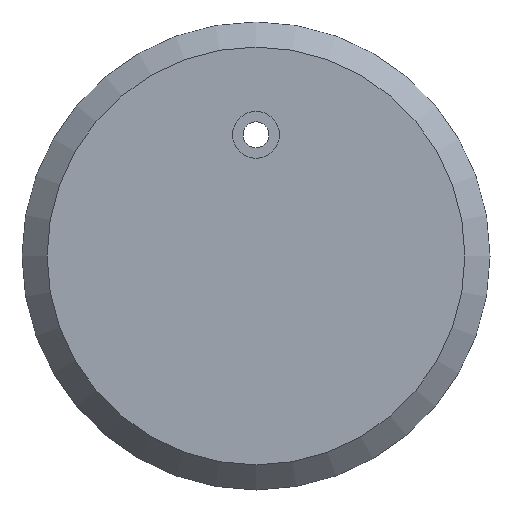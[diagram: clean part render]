
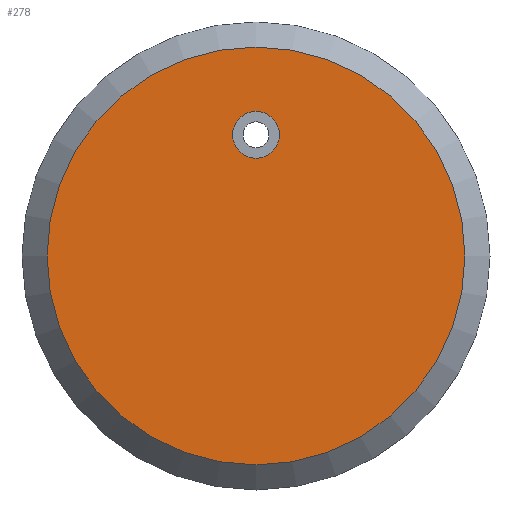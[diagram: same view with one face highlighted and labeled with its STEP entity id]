
A CAD part, front view. The second image highlights one B-rep face of the part: STEP entity #278.
In plain terms, the highlighted planar face has unit normal (0, -1, 0).
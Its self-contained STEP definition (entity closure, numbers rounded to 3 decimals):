
#251=CARTESIAN_POINT('',(0.,90.2,-74.098));
#252=DIRECTION('',(0.,-1.,0.));
#253=DIRECTION('',(0.,0.,-1.));
#254=AXIS2_PLACEMENT_3D('',#251,#252,#253);
#255=PLANE('',#254);
#256=CARTESIAN_POINT('',(-0.,90.2,-64.8));
#257=VERTEX_POINT('',#256);
#258=CARTESIAN_POINT('',(0.,90.2,-62.));
#259=DIRECTION('',(0.,-1.,0.));
#260=DIRECTION('',(0.,0.,-1.));
#261=AXIS2_PLACEMENT_3D('',#258,#259,#260);
#262=CIRCLE('',#261,2.8);
#263=EDGE_CURVE('',#257,#257,#262,.T.);
#264=ORIENTED_EDGE('',*,*,#263,.F.);
#265=EDGE_LOOP('',(#264));
#266=FACE_BOUND('',#265,.T.);
#267=CARTESIAN_POINT('',(0.,90.2,-51.5));
#268=VERTEX_POINT('',#267);
#269=CARTESIAN_POINT('',(0.,90.2,-76.5));
#270=DIRECTION('',(-0.,-1.,-0.));
#271=DIRECTION('',(0.,-0.,1.));
#272=AXIS2_PLACEMENT_3D('',#269,#270,#271);
#273=CIRCLE('',#272,25.);
#274=EDGE_CURVE('',#268,#268,#273,.T.);
#275=ORIENTED_EDGE('',*,*,#274,.T.);
#276=EDGE_LOOP('',(#275));
#277=FACE_BOUND('',#276,.T.);
#278=ADVANCED_FACE('',(#266,#277),#255,.T.);
